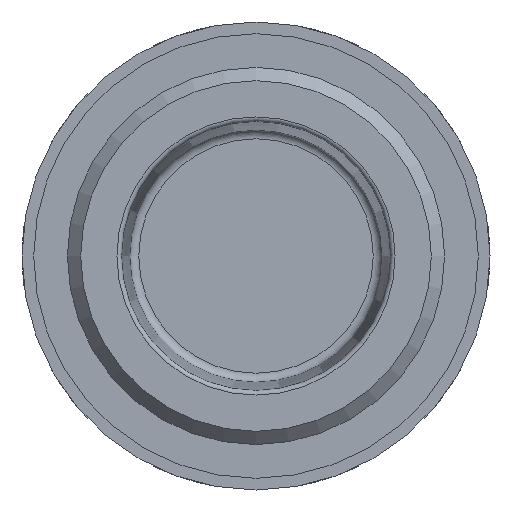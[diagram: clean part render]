
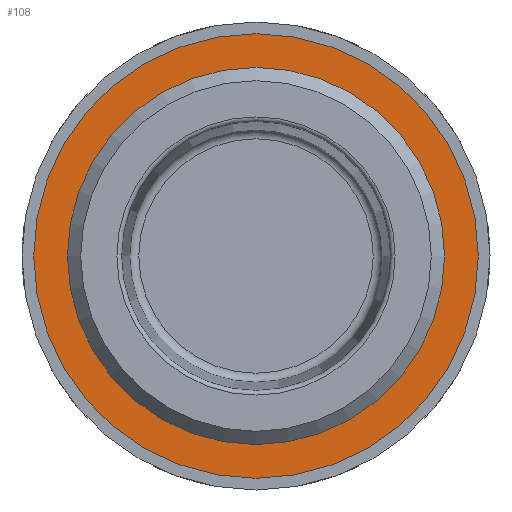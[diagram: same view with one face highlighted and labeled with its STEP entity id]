
A CAD part, left-side view. The second image highlights one B-rep face of the part: STEP entity #108.
In plain terms, the highlighted planar face has unit normal (-1, 0, 0).
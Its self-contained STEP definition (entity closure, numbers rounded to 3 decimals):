
#108 = ADVANCED_FACE( '', ( #200, #201 ), #202, .T. );
#200 = FACE_BOUND( '', #326, .T. );
#201 = FACE_OUTER_BOUND( '', #327, .T. );
#202 = PLANE( '', #328 );
#326 = EDGE_LOOP( '', ( #611 ) );
#327 = EDGE_LOOP( '', ( #612 ) );
#328 = AXIS2_PLACEMENT_3D( '', #613, #614, #615 );
#611 = ORIENTED_EDGE( '', *, *, #924, .T. );
#612 = ORIENTED_EDGE( '', *, *, #925, .F. );
#613 = CARTESIAN_POINT( '', ( 11.7, 24.7, 0. ) );
#614 = DIRECTION( '', ( -1., 0., 0. ) );
#615 = DIRECTION( '', ( 0., -1., 0. ) );
#924 = EDGE_CURVE( '', #1140, #1140, #1141, .T. );
#925 = EDGE_CURVE( '', #1142, #1142, #1143, .T. );
#1140 = VERTEX_POINT( '', #1488 );
#1141 = CIRCLE( '', #1489, 20.955 );
#1142 = VERTEX_POINT( '', #1490 );
#1143 = CIRCLE( '', #1491, 24.7 );
#1488 = CARTESIAN_POINT( '', ( 11.7, 20.955, 0. ) );
#1489 = AXIS2_PLACEMENT_3D( '', #1662, #1663, #1664 );
#1490 = CARTESIAN_POINT( '', ( 11.7, 24.7, 0. ) );
#1491 = AXIS2_PLACEMENT_3D( '', #1665, #1666, #1667 );
#1662 = CARTESIAN_POINT( '', ( 11.7, 0., 0. ) );
#1663 = DIRECTION( '', ( 1., 0., 0. ) );
#1664 = DIRECTION( '', ( 0., 1., 0. ) );
#1665 = CARTESIAN_POINT( '', ( 11.7, 0., 0. ) );
#1666 = DIRECTION( '', ( 1., 0., 0. ) );
#1667 = DIRECTION( '', ( 0., 1., 0. ) );
